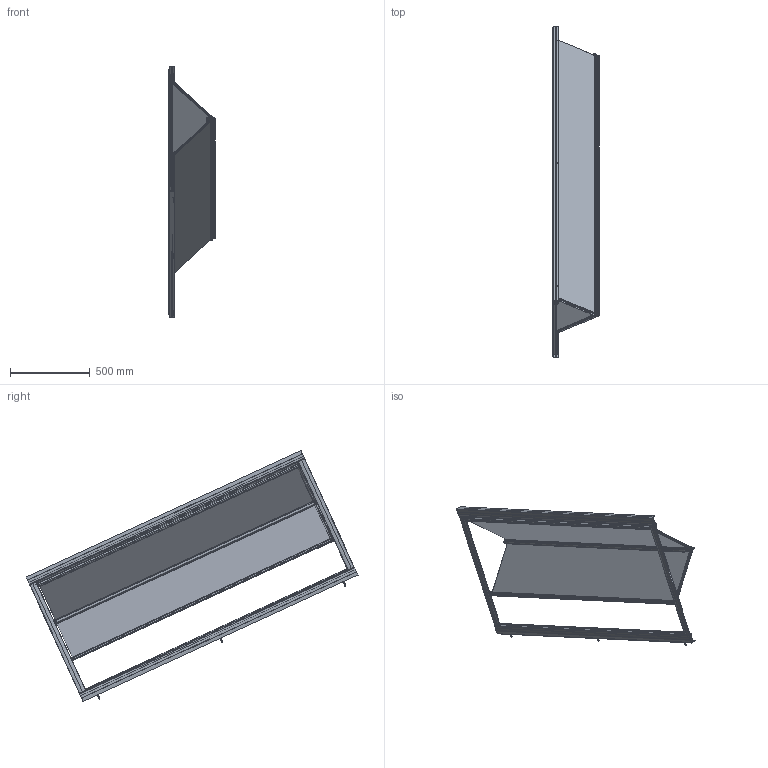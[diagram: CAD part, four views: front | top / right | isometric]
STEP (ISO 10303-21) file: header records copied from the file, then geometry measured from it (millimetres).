
FILE_DESCRIPTION(/* description */ (''),/* implementation_level */ '2;1');
FILE_NAME(/* name */ 'C:\Users\benassi\Desktop\dwg 3D\America quattro 2019\America 4 soffietto 86-94.stp',/* time_stamp */ '2018-07-17T16:13:57+02:00',/* author */ ('benassi'),/* organization */ (''),/* preprocessor_version */ 'ST-DEVELOPER v16.1',/* originating_system */ 'Autodesk Inventor 2016',/* authorisation */ '');
FILE_SCHEMA (('AUTOMOTIVE_DESIGN { 1 0 10303 214 3 1 1 }'));
Products named in the file (35): 10000021555; 10000021552; 10000013728; 10000013731; 10000013732; 10000013734; 10000021551; 10000021628; 10000015950; 10000013865; 10000013868; 10000013870; 10000021556; 10000021553; 10000013873; 10000021554; 10000013877; 10000013877_1; 10000013880; 10000013881; 10000013882; 10000013884; ISO 7049 - ST 3,5 x 19 - C - Z; ISO 7049 - ST 3,5 x 25 - C - Z; DIN 9021 - 4,3; 10000013889; 10000013889_1; 10000021557; 10000021298; 10000013432; 10000013433; 10000013434; 10000019154; 158038; 10000021550
Assembly tree (71 placements, depth 3):
  10000021550
    10000021555
    10000021552
    10000013728
    10000013731
    10000013732
    10000013734  x2
    10000021551  x2
    10000021628  x2
    10000015950  x2
    10000013865  x3
    10000013868
    10000013870  x2
    10000021556  x2
    10000021553  x2
    10000013873  x4
    10000021554
    10000013877
    10000013877_1
    10000013880  x2
    10000013881  x2
    10000013882  x2
    10000013884
    ISO 7049 - ST 3,5 x 19 - C - Z  x6
    ISO 7049 - ST 3,5 x 25 - C - Z  x4
    DIN 9021 - 4,3  x2
    10000013889
    10000013889_1
    10000021557
    10000021298  x2
    10000013434  x6
      10000013432
      10000013433
    10000019154  x3
    10000013433  x3
    158038  x3
Bounding box: 289.52 x 2085.46 x 1574.24 mm (x, y, z)
Volume: 8074200.7 mm3; surface area: 7246036.4 mm2
Topology: 75 solids, 75 shells, 3431 faces, 8996 edges, 5829 vertices
Faces by surface type: plane 1533, cylinder 1311, cone 231, torus 145, bspline 127, sphere 84
Full cylindrical faces by diameter (mm): 2.8 x3, 3 x12, 3.2 x2, 3.5 x10, 3.6 x2, 3.9 x6, 4 x28, 4.2 x3, 4.3 x2, 5 x6, 6 x4, 6.1 x4, 6.2 x3, 6.3 x9, 7 x1, 7.3 x9, 7.6 x22, 7.9 x3, 8.2 x7, 9 x11, 9.1 x2, 10 x3, 12 x2, 12.4 x2, 15 x2
Entity records: 59687 total; most frequent: CARTESIAN_POINT 15034, DIRECTION 9611, ORIENTED_EDGE 8978, EDGE_CURVE 4489, AXIS2_PLACEMENT_3D 3582, VERTEX_POINT 2965, LINE 2447, VECTOR 2447
